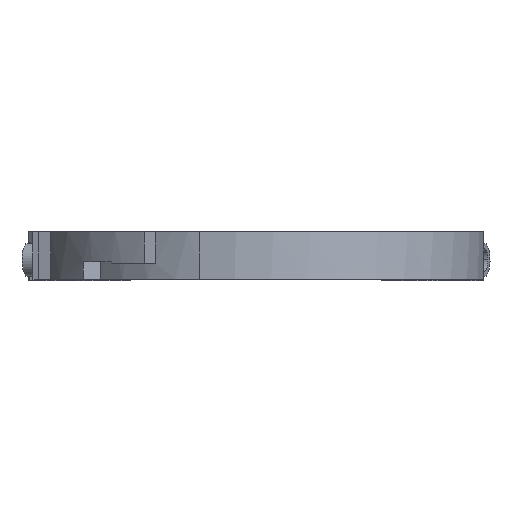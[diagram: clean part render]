
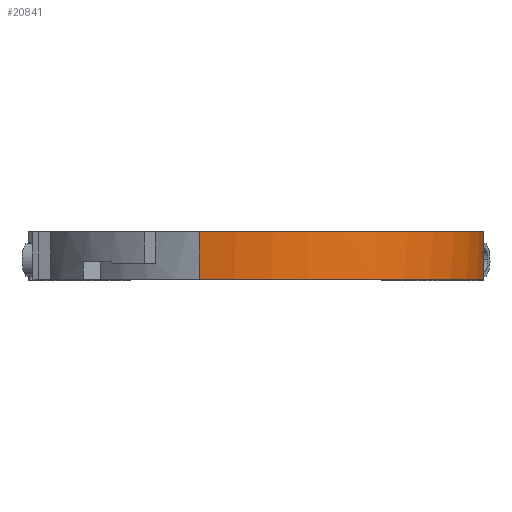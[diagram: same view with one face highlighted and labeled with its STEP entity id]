
A CAD part, front view. The second image highlights one B-rep face of the part: STEP entity #20841.
In plain terms, the highlighted cylindrical face has radius 25 mm (diameter 50 mm), a partial arc.
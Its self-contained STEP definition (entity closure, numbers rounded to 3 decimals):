
#7276=CARTESIAN_POINT(' ',(-6.26,-24.204,5.25));
#7277=VERTEX_POINT(' ',#7276);
#7291=CARTESIAN_POINT(' ',(0.,0.,5.25));
#7296=DIRECTION(' ',(0.,0.,1.));
#7301=DIRECTION(' ',(-0.25,-0.968,0.));
#7306=AXIS2_PLACEMENT_3D(' ',#7291,#7296,#7301);
#7311=CIRCLE('',#7306,25.);
#7316=CARTESIAN_POINT(' ',(23.826,7.571,5.25));
#7317=VERTEX_POINT(' ',#7316);
#7321=EDGE_CURVE(' ',#7277,#7317,#7311,.T.);
#20441=CARTESIAN_POINT(' ',(-6.26,-24.204,0.));
#20442=VERTEX_POINT(' ',#20441);
#20456=CARTESIAN_POINT(' ',(-6.26,-24.204,0.));
#20461=DIRECTION(' ',(0.,0.,1.));
#20466=VECTOR(' ',#20461,1.);
#20471=LINE('',#20456,#20466);
#20476=EDGE_CURVE(' ',#20442,#7277,#20471,.T.);
#20501=CARTESIAN_POINT(' ',(0.,0.,22.5));
#20506=DIRECTION(' ',(0.,0.,1.));
#20511=DIRECTION(' ',(-0.25,-0.968,-0.));
#20516=AXIS2_PLACEMENT_3D(' ',#20501,#20506,#20511);
#20521=CYLINDRICAL_SURFACE(' ',#20516,25.);
#20526=CARTESIAN_POINT(' ',(24.973,1.153,-0.15));
#20531=DIRECTION(' ',(0.,0.,1.));
#20536=VECTOR(' ',#20531,1.);
#20541=LINE('',#20526,#20536);
#20546=CARTESIAN_POINT(' ',(24.973,1.153,-0.15));
#20547=VERTEX_POINT(' ',#20546);
#20551=CARTESIAN_POINT(' ',(24.973,1.153,4.05));
#20552=VERTEX_POINT(' ',#20551);
#20556=EDGE_CURVE(' ',#20547,#20552,#20541,.T.);
#20561=ORIENTED_EDGE(' ',*,*,#20556,.T.);
#20566=CARTESIAN_POINT(' ',(0.,0.,4.05));
#20571=DIRECTION(' ',(-0.,-0.,-1.));
#20576=DIRECTION(' ',(0.985,0.174,0.));
#20581=AXIS2_PLACEMENT_3D(' ',#20566,#20571,#20576);
#20586=CIRCLE('',#20581,25.);
#20591=CARTESIAN_POINT(' ',(24.62,4.341,4.05));
#20592=VERTEX_POINT(' ',#20591);
#20596=EDGE_CURVE(' ',#20592,#20552,#20586,.T.);
#20601=ORIENTED_EDGE(' ',*,*,#20596,.F.);
#20606=CARTESIAN_POINT(' ',(24.62,4.341,4.05));
#20611=DIRECTION(' ',(0.,0.,1.));
#20616=VECTOR(' ',#20611,1.);
#20621=LINE('',#20606,#20616);
#20626=CARTESIAN_POINT(' ',(24.62,4.341,4.45));
#20627=VERTEX_POINT(' ',#20626);
#20631=EDGE_CURVE(' ',#20592,#20627,#20621,.T.);
#20636=ORIENTED_EDGE(' ',*,*,#20631,.T.);
#20641=CARTESIAN_POINT(' ',(0.,0.,4.45));
#20646=DIRECTION(' ',(0.,0.,-1.));
#20651=DIRECTION(' ',(0.953,0.303,0.));
#20656=AXIS2_PLACEMENT_3D(' ',#20641,#20646,#20651);
#20661=CIRCLE('',#20656,25.);
#20666=CARTESIAN_POINT(' ',(23.826,7.571,4.45));
#20667=VERTEX_POINT(' ',#20666);
#20671=EDGE_CURVE(' ',#20667,#20627,#20661,.T.);
#20676=ORIENTED_EDGE(' ',*,*,#20671,.F.);
#20681=CARTESIAN_POINT(' ',(23.826,7.571,4.45));
#20686=DIRECTION(' ',(0.,0.,1.));
#20691=VECTOR(' ',#20686,1.);
#20696=LINE('',#20681,#20691);
#20701=EDGE_CURVE(' ',#20667,#7317,#20696,.T.);
#20706=ORIENTED_EDGE(' ',*,*,#20701,.T.);
#20711=ORIENTED_EDGE(' ',*,*,#7321,.F.);
#20716=ORIENTED_EDGE(' ',*,*,#20476,.F.);
#20721=CARTESIAN_POINT(' ',(0.,0.,0.));
#20726=DIRECTION(' ',(-0.,0.,-1.));
#20731=DIRECTION(' ',(0.998,-0.06,0.));
#20736=AXIS2_PLACEMENT_3D(' ',#20721,#20726,#20731);
#20741=CIRCLE('',#20736,25.);
#20746=CARTESIAN_POINT(' ',(24.955,-1.501,0.));
#20747=VERTEX_POINT(' ',#20746);
#20751=EDGE_CURVE(' ',#20747,#20442,#20741,.T.);
#20756=ORIENTED_EDGE(' ',*,*,#20751,.F.);
#20761=CARTESIAN_POINT(' ',(24.955,-1.501,0.));
#20766=DIRECTION(' ',(0.,0.,-1.));
#20771=VECTOR(' ',#20766,1.);
#20776=LINE('',#20761,#20771);
#20781=CARTESIAN_POINT(' ',(24.955,-1.501,-0.15));
#20782=VERTEX_POINT(' ',#20781);
#20786=EDGE_CURVE(' ',#20747,#20782,#20776,.T.);
#20791=ORIENTED_EDGE(' ',*,*,#20786,.T.);
#20796=CARTESIAN_POINT(' ',(0.,0.,-0.15));
#20801=DIRECTION(' ',(-0.,0.,-1.));
#20806=DIRECTION(' ',(0.999,0.046,0.));
#20811=AXIS2_PLACEMENT_3D(' ',#20796,#20801,#20806);
#20816=CIRCLE('',#20811,25.);
#20821=EDGE_CURVE(' ',#20547,#20782,#20816,.T.);
#20826=ORIENTED_EDGE(' ',*,*,#20821,.F.);
#20831=EDGE_LOOP(' ',(#20561,#20601,#20636,#20676,#20706,#20711,#20716,#20756,#20791,#20826));
#20836=FACE_OUTER_BOUND(' ',#20831,.T.);
#20841=ADVANCED_FACE('',(#20836),#20521,.T.);
